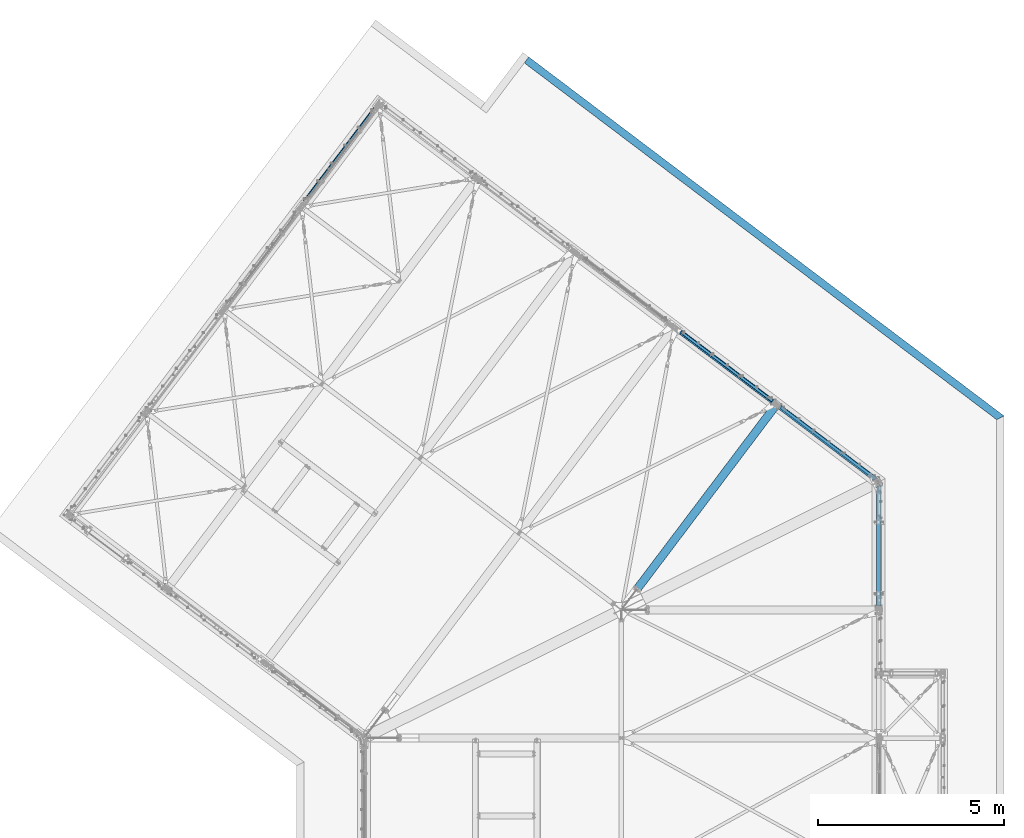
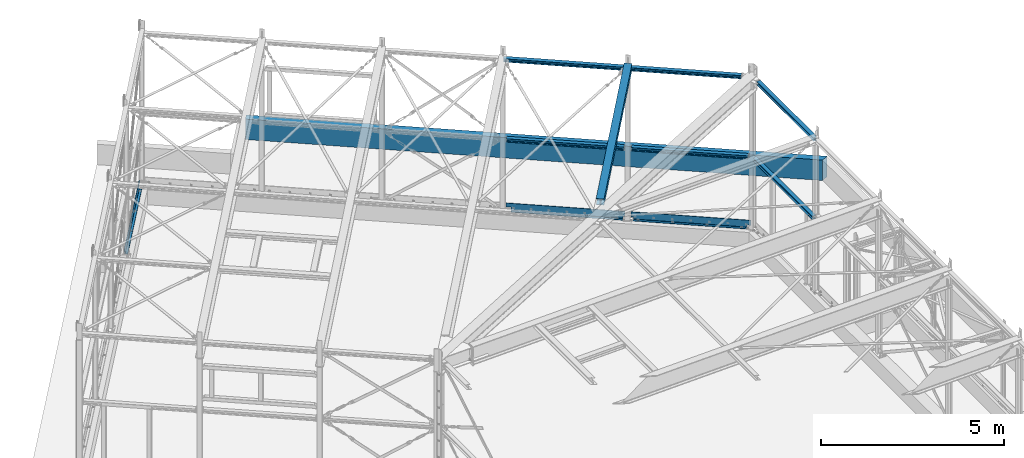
# One storey, part 26 of 476: 10 beams, 1 member, 62 openings.
"""IFC2X3 building model written with IfcOpenShell, lengths in millimetres."""

from ifc_helpers import new_model, entity, si_unit, converted_unit, frame, frame_2d, origin, origin_with_axes, origin_2d, origin_2d_with_axis, place, context, project, spatial, polyline, circle, i_section, l_section, outline, extrude, clip, halfspace, material, element, save


model = new_model("IFC2X3")

# Units and contexts
model_context = context("Model", 3, precision=1e-09, world=origin_with_axes())
ifc_project = project(units=[si_unit("LENGTHUNIT", "METRE", prefix="MILLI"), si_unit("AREAUNIT", "SQUARE_METRE"), si_unit("VOLUMEUNIT", "CUBIC_METRE"), converted_unit("PLANEANGLEUNIT", "DEGREE", entity("IfcPlaneAngleMeasure", 0.01745329), si_unit("PLANEANGLEUNIT", "RADIAN"), dimensions=[0, 0, 0, 0, 0, 0, 0])], contexts=[model_context])

# Site, building, storey
site_placement = place(None, origin_with_axes())
site = spatial("IfcSite", under=ifc_project, at=site_placement, Name="mKR Teilneubau & Sanierung BA1 - Ostfildern", CompositionType="ELEMENT")
building_placement = place(site_placement, origin_with_axes())
building = spatial("IfcBuilding", under=site, at=building_placement, Name="Struktur 1", CompositionType="ELEMENT")
storey_placement = place(building_placement, origin_with_axes())
storey = spatial("IfcBuildingStorey", under=building, at=storey_placement, Name="Default Storey", CompositionType="ELEMENT", Elevation=0.0)

# Beam, openings
ifc_material_1 = material(Name="S235JR")
beam_1_placement = place(None, frame((8471.927959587, 11009.794595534, 594.499999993), z_axis=(-0.602734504, -0.797941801, 0.0), x_axis=(0.797941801, -0.602734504, 0.0)))
beam_1 = element("IfcBeam", 1, at=beam_1_placement, inside=storey, material=ifc_material_1, Name="-", ObjectType="-", context=model_context, shape_type="SweptSolid", body=[
    extrude(l_section(Depth=250.0, Width=90.0, Thickness=10.0, FilletRadius=15.0, EdgeRadius=7.5, at=frame_2d((30.5, 29.4))), origin(), (0.0, 0.0, 1.0), 3286.500000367),
])
opening_1_placement = place(beam_1_placement, frame((-115.7, 25.501, 81.501), z_axis=(-1.0, 0.0, 0.0), x_axis=(0.0, 0.0, -1.0)))
element("IfcOpeningElement", 2, at=opening_1_placement, cuts=beam_1, ObjectType="Opening", context=model_context, shape_type="SweptSolid", body=[
    extrude(outline(polyline([(0.0, 0.0), (131.502, 0.0), (131.502, 170.002), (0.0, 170.002), (0.0, 0.0)])), origin(), (0.0, 0.0, -1.0), 290.2),
])
opening_2_placement = place(beam_1_placement, frame((-115.7, -144.501, 3201.499000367), z_axis=(-1.0, 0.0, 0.0), x_axis=(0.0, 0.0, 1.0)))
element("IfcOpeningElement", 3, at=opening_2_placement, cuts=beam_1, ObjectType="Opening", context=model_context, shape_type="SweptSolid", body=[
    extrude(outline(polyline([(0.0, 0.0), (147.593321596, 0.0), (147.593321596, 170.002), (0.0, 170.002), (0.0, 0.0)])), origin(), (0.0, 0.0, -1.0), 290.2),
])
opening_3_placement = place(beam_1_placement, frame((34.4, -95.0, 1641.500000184), z_axis=(0.0, 1.0, 0.0), x_axis=(0.0, 0.0, 1.0)))
element("IfcOpeningElement", 4, at=opening_3_placement, cuts=beam_1, ObjectType="Opening", context=model_context, shape_type="SweptSolid", body=[
    extrude(circle(Radius=6.001, at=frame_2d((475.0, 0.0), x_axis=(1.0, 0.0))), origin(), (0.0, 0.0, 1.0), 11.000000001),
])
opening_4_placement = place(beam_1_placement, frame((34.4, -95.0, 1641.500000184), z_axis=(0.0, 1.0, 0.0), x_axis=(0.0, 0.0, 1.0)))
element("IfcOpeningElement", 5, at=opening_4_placement, cuts=beam_1, ObjectType="Opening", context=model_context, shape_type="SweptSolid", body=[
    extrude(circle(Radius=6.001, at=frame_2d((-475.0, 0.0), x_axis=(1.0, 0.0))), origin(), (0.0, 0.0, 1.0), 11.000000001),
])
opening_5_placement = place(beam_1_placement, frame((34.4, -95.0, 1641.500000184), z_axis=(0.0, 1.0, 0.0), x_axis=(0.0, 0.0, 1.0)))
element("IfcOpeningElement", 6, at=opening_5_placement, cuts=beam_1, ObjectType="Opening", context=model_context, shape_type="SweptSolid", body=[
    extrude(circle(Radius=6.001, at=frame_2d((1425.0, 0.0), x_axis=(1.0, 0.0))), origin(), (0.0, 0.0, 1.0), 11.000000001),
])
opening_6_placement = place(beam_1_placement, frame((34.4, -95.0, 1641.500000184), z_axis=(0.0, 1.0, 0.0), x_axis=(0.0, 0.0, 1.0)))
element("IfcOpeningElement", 7, at=opening_6_placement, cuts=beam_1, ObjectType="Opening", context=model_context, shape_type="SweptSolid", body=[
    extrude(circle(Radius=6.001, at=frame_2d((-1425.0, 0.0), x_axis=(1.0, 0.0))), origin(), (0.0, 0.0, 1.0), 11.000000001),
])
opening_7_placement = place(beam_1_placement, frame((-5.1, 13.5, 1643.250000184), z_axis=(-1.0, 0.0, 0.0), x_axis=(0.0, 0.0, 1.0)))
element("IfcOpeningElement", 8, at=opening_7_placement, cuts=beam_1, ObjectType="Opening", context=model_context, shape_type="SweptSolid", body=[
    extrude(circle(Radius=7.001, at=frame_2d((300.0, 0.0), x_axis=(1.0, 0.0))), origin(), (0.0, 0.0, 1.0), 11.0),
])
opening_8_placement = place(beam_1_placement, frame((-5.1, 13.5, 1643.250000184), z_axis=(-1.0, 0.0, 0.0), x_axis=(0.0, 0.0, 1.0)))
element("IfcOpeningElement", 9, at=opening_8_placement, cuts=beam_1, ObjectType="Opening", context=model_context, shape_type="SweptSolid", body=[
    extrude(circle(Radius=7.001, at=frame_2d((-300.0, 0.0), x_axis=(1.0, 0.0))), origin(), (0.0, 0.0, 1.0), 11.0),
])
opening_9_placement = place(beam_1_placement, frame((-5.1, 13.5, 1643.250000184), z_axis=(-1.0, 0.0, 0.0), x_axis=(0.0, 0.0, 1.0)))
element("IfcOpeningElement", 10, at=opening_9_placement, cuts=beam_1, ObjectType="Opening", context=model_context, shape_type="SweptSolid", body=[
    extrude(circle(Radius=7.001, at=frame_2d((900.0, 0.0), x_axis=(1.0, 0.0))), origin(), (0.0, 0.0, 1.0), 11.0),
])
opening_10_placement = place(beam_1_placement, frame((-5.1, 13.5, 1643.250000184), z_axis=(-1.0, 0.0, 0.0), x_axis=(0.0, 0.0, 1.0)))
element("IfcOpeningElement", 11, at=opening_10_placement, cuts=beam_1, ObjectType="Opening", context=model_context, shape_type="SweptSolid", body=[
    extrude(circle(Radius=7.001, at=frame_2d((-900.0, 0.0), x_axis=(1.0, 0.0))), origin(), (0.0, 0.0, 1.0), 11.0),
])
opening_11_placement = place(beam_1_placement, frame((-5.1, 13.5, 1643.250000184), z_axis=(-1.0, 0.0, 0.0), x_axis=(0.0, 0.0, 1.0)))
element("IfcOpeningElement", 12, at=opening_11_placement, cuts=beam_1, ObjectType="Opening", context=model_context, shape_type="SweptSolid", body=[
    extrude(circle(Radius=7.001, at=frame_2d((1500.0, 0.0), x_axis=(1.0, 0.0))), origin(), (0.0, 0.0, 1.0), 11.0),
])
opening_12_placement = place(beam_1_placement, frame((-5.1, 13.5, 1643.250000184), z_axis=(-1.0, 0.0, 0.0), x_axis=(0.0, 0.0, 1.0)))
element("IfcOpeningElement", 13, at=opening_12_placement, cuts=beam_1, ObjectType="Opening", context=model_context, shape_type="SweptSolid", body=[
    extrude(circle(Radius=7.001, at=frame_2d((-1500.0, 0.0), x_axis=(1.0, 0.0))), origin(), (0.0, 0.0, 1.0), 11.0),
])

beam_2_placement = place(None, frame((19318.991391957, 2984.773909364, 594.5), z_axis=(-0.797941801, 0.602734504, 0.0), x_axis=(-0.602734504, -0.797941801, 0.0)))
beam_2 = element("IfcBeam", 14, at=beam_2_placement, inside=storey, material=ifc_material_1, Name="-", ObjectType="-", context=model_context, shape_type="SweptSolid", body=[
    extrude(l_section(Depth=250.0, Width=90.0, Thickness=10.0, FilletRadius=15.0, EdgeRadius=7.5, at=frame_2d((30.5, 29.4))), origin(), (0.0, 0.0, -1.0), 3300.155173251),
])
opening_13_placement = place(beam_2_placement, frame((-115.7, -94.5, 0.0), z_axis=(1.0, 0.0, 0.0), x_axis=(0.0, 0.0, -1.0)))
element("IfcOpeningElement", 15, at=opening_13_placement, cuts=beam_2, ObjectType="Opening", context=model_context, shape_type="SweptSolid", body=[
    extrude(outline(polyline([(65.001, 80.001), (-50.001, 80.001), (-50.001, -50.001), (65.001, -50.001), (65.001, 80.001)])), origin(), (0.0, 0.0, 1.0), 290.2),
])
opening_14_placement = place(beam_2_placement, frame((-115.7, -94.5, 0.0), z_axis=(1.0, 0.0, 0.0), x_axis=(0.0, 0.0, -1.0)))
element("IfcOpeningElement", 16, at=opening_14_placement, cuts=beam_2, ObjectType="Opening", context=model_context, shape_type="SweptSolid", body=[
    extrude(outline(polyline([(3185.154173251, -50.001), (3332.46896206, -50.001), (3332.46896206, 80.001), (3185.154173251, 80.001), (3185.154173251, -50.001)])), origin(), (0.0, 0.0, 1.0), 290.2),
])
opening_15_placement = place(beam_2_placement, frame((34.4, -95.0, -2094.076586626), z_axis=(0.0, -1.0, 0.0), x_axis=(1.0, 0.0, 0.0)))
element("IfcOpeningElement", 17, at=opening_15_placement, cuts=beam_2, ObjectType="Opening", context=model_context, shape_type="SweptSolid", body=[
    extrude(circle(Radius=6.001, at=frame_2d((0.0, -6.001), x_axis=(1.0, 0.0))), origin(), (0.0, 0.0, -1.0), 11.0),
])
opening_16_placement = place(beam_2_placement, frame((34.4, -95.0, -1144.076586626), z_axis=(0.0, -1.0, 0.0), x_axis=(1.0, 0.0, 0.0)))
element("IfcOpeningElement", 18, at=opening_16_placement, cuts=beam_2, ObjectType="Opening", context=model_context, shape_type="SweptSolid", body=[
    extrude(circle(Radius=6.001, at=frame_2d((0.0, -6.001), x_axis=(1.0, 0.0))), origin(), (0.0, 0.0, -1.0), 11.0),
])
opening_17_placement = place(beam_2_placement, frame((34.4, -95.0, -3044.076586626), z_axis=(0.0, -1.0, 0.0), x_axis=(1.0, 0.0, 0.0)))
element("IfcOpeningElement", 19, at=opening_17_placement, cuts=beam_2, ObjectType="Opening", context=model_context, shape_type="SweptSolid", body=[
    extrude(circle(Radius=6.001, at=frame_2d((0.0, -6.001), x_axis=(1.0, 0.0))), origin(), (0.0, 0.0, -1.0), 11.0),
])
opening_18_placement = place(beam_2_placement, frame((34.4, -95.0, -194.076586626), z_axis=(0.0, -1.0, 0.0), x_axis=(1.0, 0.0, 0.0)))
element("IfcOpeningElement", 20, at=opening_18_placement, cuts=beam_2, ObjectType="Opening", context=model_context, shape_type="SweptSolid", body=[
    extrude(circle(Radius=6.001, at=frame_2d((0.0, -6.001), x_axis=(1.0, 0.0))), origin(), (0.0, 0.0, -1.0), 11.0),
])
opening_19_placement = place(beam_2_placement, frame((-5.1, 13.5, -1650.077586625), z_axis=(-1.0, 0.0, 0.0), x_axis=(0.0, 0.0, 1.0)))
element("IfcOpeningElement", 21, at=opening_19_placement, cuts=beam_2, ObjectType="Opening", context=model_context, shape_type="SweptSolid", body=[
    extrude(circle(Radius=7.001, at=origin_2d_with_axis()), origin(), (0.0, 0.0, 1.0), 11.0),
])
opening_20_placement = place(beam_2_placement, frame((-5.1, 13.5, -1650.077586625), z_axis=(-1.0, 0.0, 0.0), x_axis=(0.0, 0.0, 1.0)))
element("IfcOpeningElement", 22, at=opening_20_placement, cuts=beam_2, ObjectType="Opening", context=model_context, shape_type="SweptSolid", body=[
    extrude(circle(Radius=7.001, at=frame_2d((510.0, 0.0), x_axis=(1.0, 0.0))), origin(), (0.0, 0.0, 1.0), 11.0),
])
opening_21_placement = place(beam_2_placement, frame((-5.1, 13.5, -1650.077586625), z_axis=(-1.0, 0.0, 0.0), x_axis=(0.0, 0.0, 1.0)))
element("IfcOpeningElement", 23, at=opening_21_placement, cuts=beam_2, ObjectType="Opening", context=model_context, shape_type="SweptSolid", body=[
    extrude(circle(Radius=7.001, at=frame_2d((-510.0, 0.0), x_axis=(1.0, 0.0))), origin(), (0.0, 0.0, 1.0), 11.0),
])
opening_22_placement = place(beam_2_placement, frame((-5.1, 13.5, -1650.077586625), z_axis=(-1.0, 0.0, 0.0), x_axis=(0.0, 0.0, 1.0)))
element("IfcOpeningElement", 24, at=opening_22_placement, cuts=beam_2, ObjectType="Opening", context=model_context, shape_type="SweptSolid", body=[
    extrude(circle(Radius=7.001, at=frame_2d((1020.0, 0.0), x_axis=(1.0, 0.0))), origin(), (0.0, 0.0, 1.0), 11.0),
])
opening_23_placement = place(beam_2_placement, frame((-5.1, 13.5, -1650.077586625), z_axis=(-1.0, 0.0, 0.0), x_axis=(0.0, 0.0, 1.0)))
element("IfcOpeningElement", 25, at=opening_23_placement, cuts=beam_2, ObjectType="Opening", context=model_context, shape_type="SweptSolid", body=[
    extrude(circle(Radius=7.001, at=frame_2d((-1020.0, 0.0), x_axis=(1.0, 0.0))), origin(), (0.0, 0.0, 1.0), 11.0),
])
opening_24_placement = place(beam_2_placement, frame((-5.1, 13.5, -1650.077586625), z_axis=(-1.0, 0.0, 0.0), x_axis=(0.0, 0.0, 1.0)))
element("IfcOpeningElement", 26, at=opening_24_placement, cuts=beam_2, ObjectType="Opening", context=model_context, shape_type="SweptSolid", body=[
    extrude(circle(Radius=7.001, at=frame_2d((1530.0, 0.0), x_axis=(1.0, 0.0))), origin(), (0.0, 0.0, 1.0), 11.0),
])
opening_25_placement = place(beam_2_placement, frame((-5.1, 13.5, -1650.077586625), z_axis=(-1.0, 0.0, 0.0), x_axis=(0.0, 0.0, 1.0)))
element("IfcOpeningElement", 27, at=opening_25_placement, cuts=beam_2, ObjectType="Opening", context=model_context, shape_type="SweptSolid", body=[
    extrude(circle(Radius=7.001, at=frame_2d((-1530.0, 0.0), x_axis=(1.0, 0.0))), origin(), (0.0, 0.0, 1.0), 11.0),
])

# Beams
beam_3_placement = place(None, frame((16417.307697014, 5112.803622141, 2912.000000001), z_axis=(-0.797941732, 0.602734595, 0.0), x_axis=(-0.602734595, -0.797941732, 0.0)))
element("IfcBeam", 28, at=beam_3_placement, inside=storey, material=ifc_material_1, Name="-", ObjectType="-", context=model_context, shape_type="Clipping", body=[
    clip(clip(extrude(i_section(OverallWidth=120.0, OverallDepth=114.0, WebThickness=5.0, FlangeThickness=8.0, FilletRadius=12.0, at=origin_2d()), origin(), (0.0, 0.0, -1.0), 3600.770332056), halfspace(frame((13974.997524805, -2912.000000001, -182.76126912), z_axis=(-1.13e-07, 0.0, -1.0), x_axis=(-1.0, 0.0, 1.13e-07)), True)), halfspace(frame((13974.997158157, -2912.000000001, -3418.012230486), z_axis=(1.13e-07, 0.0, 1.0), x_axis=(1.0, 0.0, -1.13e-07)), True)),
])
beam_4_placement = place(None, frame((19158.439396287, 3042.257820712, 2912.000000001), z_axis=(-0.797941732, 0.602734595, 0.0), x_axis=(-0.602734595, -0.797941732, 0.0)))
element("IfcBeam", 29, at=beam_4_placement, inside=storey, material=ifc_material_1, Name="-", ObjectType="-", context=model_context, shape_type="Clipping", body=[
    clip(clip(extrude(i_section(OverallWidth=120.0, OverallDepth=114.0, WebThickness=5.0, FlangeThickness=8.0, FilletRadius=12.0, at=origin_2d()), origin(), (0.0, 0.0, -1.0), 3598.387417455), halfspace(frame((13974.997135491, -2912.000000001, -182.76126912), z_axis=(-1.13e-07, 0.0, -1.0), x_axis=(-1.0, 0.0, 1.13e-07)), True)), halfspace(frame((17925.730200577, -2912.000000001, 5518.259129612), z_axis=(-0.445682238, 0.0, 0.895191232), x_axis=(0.895191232, 0.0, 0.445682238)), True)),
])

# Beam, openings
beam_5_placement = place(None, frame((21965.608780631, 1002.223846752, 2912.000017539), z_axis=(0.0, 1.0, 0.0), x_axis=(-1.0, 0.0, 0.0)))
beam_5 = element("IfcBeam", 30, at=beam_5_placement, inside=storey, material=ifc_material_1, Name="-", ObjectType="-", context=model_context, shape_type="Clipping", body=[
    clip(clip(extrude(i_section(OverallWidth=120.0, OverallDepth=114.0, WebThickness=5.0, FlangeThickness=8.0, FilletRadius=12.0, at=origin_2d()), origin(), (0.0, 0.0, -1.0), 3598.403486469), halfspace(frame((21965.608780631, -2912.000017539, -3415.643801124), z_axis=(0.0, 0.0, 1.0), x_axis=(1.0, 0.0, 0.0)), True)), halfspace(frame((17925.739002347, -2912.000017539, -9116.648583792), z_axis=(-0.44568234, 0.0, -0.895191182), x_axis=(-0.895191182, 0.0, 0.44568234)), True)),
])
opening_26_placement = place(beam_5_placement, frame((-6.4999535, -57.5, -3176.328545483), z_axis=(0.0, 1.0, 0.0), x_axis=(0.0, 0.0, 1.0)))
element("IfcOpeningElement", 31, at=opening_26_placement, cuts=beam_5, ObjectType="Opening", context=model_context, shape_type="SweptSolid", body=[
    extrude(circle(Radius=6.001, at=frame_2d((0.0, 35.0), x_axis=(1.0, 0.0))), origin(), (0.0, 0.0, 1.0), 9.0),
])
opening_27_placement = place(beam_5_placement, frame((-6.4999535, -57.5, -3176.328545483), z_axis=(0.0, 1.0, 0.0), x_axis=(0.0, 0.0, 1.0)))
element("IfcOpeningElement", 32, at=opening_27_placement, cuts=beam_5, ObjectType="Opening", context=model_context, shape_type="SweptSolid", body=[
    extrude(circle(Radius=6.001, at=frame_2d((0.0, -35.0), x_axis=(1.0, 0.0))), origin(), (0.0, 0.0, 1.0), 9.0),
])
opening_28_placement = place(beam_5_placement, frame((28.5000465, -57.5, -1060.325606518), z_axis=(0.0, -1.0, 0.0), x_axis=(1.0, 0.0, 0.0)))
element("IfcOpeningElement", 33, at=opening_28_placement, cuts=beam_5, ObjectType="Opening", context=model_context, shape_type="SweptSolid", body=[
    extrude(circle(Radius=6.001, at=frame_2d((0.0, -6.001), x_axis=(1.0, 0.0))), origin(), (0.0, 0.0, -1.0), 9.0),
])
opening_29_placement = place(beam_5_placement, frame((-41.4999535, -57.5, -1060.325606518), z_axis=(0.0, -1.0, 0.0), x_axis=(1.0, 0.0, 0.0)))
element("IfcOpeningElement", 34, at=opening_29_placement, cuts=beam_5, ObjectType="Opening", context=model_context, shape_type="SweptSolid", body=[
    extrude(circle(Radius=6.001, at=frame_2d((0.0, -6.001), x_axis=(1.0, 0.0))), origin(), (0.0, 0.0, -1.0), 9.0),
])

beam_6_placement = place(None, frame((16417.307754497, 5112.803579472, 5571.987160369), z_axis=(-0.797941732, 0.602734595, 0.0), x_axis=(-0.602462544, -0.797581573, -0.030041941)))
beam_6 = element("IfcBeam", 35, at=beam_6_placement, inside=storey, material=ifc_material_1, Name="-", ObjectType="-", context=model_context, shape_type="Clipping", body=[
    clip(clip(extrude(i_section(OverallWidth=120.0, OverallDepth=114.0, WebThickness=5.0, FlangeThickness=8.0, FilletRadius=12.0, at=origin_2d()), origin(), (0.0, 0.0, -1.0), 3600.77036051), halfspace(frame((14136.082692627, -5149.636124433, -3502.512177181), z_axis=(1.13e-07, 0.0, 1.0), x_axis=(0.999548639, 0.030041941, -1.13e-07)), True)), halfspace(frame((14136.083078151, -5149.636124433, -100.761215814), z_axis=(-1.13e-07, 0.0, -1.0), x_axis=(-0.999548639, -0.030041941, 1.13e-07)), True)),
])
opening_30_placement = place(beam_6_placement, frame((0.0, 58.324395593, -3518.011675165), z_axis=(0.0, -1.0, 0.0), x_axis=(1.13e-07, 0.0, 1.0)))
element("IfcOpeningElement", 36, at=opening_30_placement, cuts=beam_6, ObjectType="Opening", context=model_context, shape_type="SweptSolid", body=[
    extrude(outline(polyline([(80.000100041, 45.000009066), (80.000100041, 75.000009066), (15.500100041, 75.000009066), (15.500100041, 45.000009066), (80.000100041, 45.000009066)])), origin(), (0.0, 0.0, 1.0), 59.648791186),
])
opening_31_placement = place(beam_6_placement, frame((0.0, 1.304733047, -3518.011675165), z_axis=(0.0, -1.0, 0.0), x_axis=(1.13e-07, 0.0, 1.0)))
element("IfcOpeningElement", 37, at=opening_31_placement, cuts=beam_6, ObjectType="Opening", context=model_context, shape_type="SweptSolid", body=[
    extrude(outline(polyline([(80.000100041, 45.000009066), (80.000100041, 75.000009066), (15.500100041, 75.000009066), (15.500100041, 45.000009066), (80.000100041, 45.000009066)])), origin(), (0.0, 0.0, 1.0), 59.609466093),
])
opening_32_placement = place(beam_6_placement, frame((0.0, -1.332627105, -82.758685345), z_axis=(0.0, 1.0, 0.0), x_axis=(-1.13e-07, 0.0, -1.0)))
element("IfcOpeningElement", 38, at=opening_32_placement, cuts=beam_6, ObjectType="Opening", context=model_context, shape_type="SweptSolid", body=[
    extrude(outline(polyline([(79.999928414, 44.999990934), (79.999928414, 75.000004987), (17.999928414, 75.000004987), (17.999928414, 44.999990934), (79.999928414, 44.999990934)])), origin(), (0.0, 0.0, 1.0), 59.665254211),
])
opening_33_placement = place(beam_6_placement, frame((0.0, -58.353598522, -82.758685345), z_axis=(0.0, 1.0, 0.0), x_axis=(-1.13e-07, 0.0, -1.0)))
element("IfcOpeningElement", 39, at=opening_33_placement, cuts=beam_6, ObjectType="Opening", context=model_context, shape_type="SweptSolid", body=[
    extrude(outline(polyline([(79.999928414, 44.999990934), (79.999928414, 75.000004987), (17.999928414, 75.000004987), (17.999928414, 44.999990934), (79.999928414, 44.999990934)])), origin(), (0.0, 0.0, 1.0), 59.707197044),
])

# Beam
ifc_material_2 = material(Name="C25/30")
beam_7_placement = place(None, frame((25804.846536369, 2201.33001772, 340.0), z_axis=(0.797941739, -0.602734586, 0.0), x_axis=(0.602734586, 0.797941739, 0.0)))
element("IfcBeam", 40, at=beam_7_placement, inside=storey, material=ifc_material_2, Name="-", ObjectType="-", context=model_context, shape_type="Clipping", body=[
    clip(extrude(outline(polyline([(100.0, -340.0), (100.0, 340.0), (-100.0, 340.0), (-100.0, -340.0), (100.0, -340.0)])), origin(), (0.0, 0.0, -1.0), 16643.923963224), halfspace(frame((-21267.807209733, -340.0, -11314.363584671), z_axis=(0.445682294, 0.0, -0.895191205), x_axis=(-0.895191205, 0.0, -0.445682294)), True)),
])

# Beam, openings
beam_8_placement = place(None, frame((21965.608780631, 712.719422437, 5571.987213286), z_axis=(0.0, 1.0, 0.0), x_axis=(-0.999548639, 0.0, -0.030041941)))
beam_8 = element("IfcBeam", 41, at=beam_8_placement, inside=storey, material=ifc_material_1, Name="-", ObjectType="-", context=model_context, shape_type="Clipping", body=[
    clip(clip(extrude(i_section(OverallWidth=120.0, OverallDepth=114.0, WebThickness=5.0, FlangeThickness=8.0, FilletRadius=12.0, at=origin_2d()), origin(), (0.0, 0.0, -1.0), 3308.899062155), halfspace(frame((22123.087675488, -4909.582702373, -3210.63937681), z_axis=(0.0, 0.0, 1.0), x_axis=(0.999548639, 0.030041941, 0.0)), True)), halfspace(frame((22123.087675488, -4909.582702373, -102.759685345), z_axis=(0.0, 0.0, -1.0), x_axis=(-0.999548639, -0.030041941, 0.0)), True)),
])
opening_34_placement = place(beam_8_placement, frame((-45.0, 58.324395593, -3146.14037681), z_axis=(0.0, -1.0, 0.0), x_axis=(0.0, 0.0, 1.0)))
element("IfcOpeningElement", 42, at=opening_34_placement, cuts=beam_8, ObjectType="Opening", context=model_context, shape_type="SweptSolid", body=[
    extrude(outline(polyline([(0.0, 0.0), (0.0, 30.0), (-64.5, 30.0), (-64.5, 0.0), (0.0, 0.0)])), origin(), (0.0, 0.0, 1.0), 59.648791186),
])
opening_35_placement = place(beam_8_placement, frame((-45.0, 1.304733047, -3146.14037681), z_axis=(0.0, -1.0, 0.0), x_axis=(0.0, 0.0, 1.0)))
element("IfcOpeningElement", 43, at=opening_35_placement, cuts=beam_8, ObjectType="Opening", context=model_context, shape_type="SweptSolid", body=[
    extrude(outline(polyline([(0.0, 0.0), (0.0, 30.0), (-64.5, 30.0), (-64.5, 0.0), (0.0, 0.0)])), origin(), (0.0, 0.0, 1.0), 59.609466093),
])
opening_36_placement = place(beam_8_placement, frame((-3.0, 30.0, -112.758685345), z_axis=(1.0, 0.0, 0.0), x_axis=(0.0, 0.0, -1.0)))
element("IfcOpeningElement", 44, at=opening_36_placement, cuts=beam_8, ObjectType="Opening", context=model_context, shape_type="SweptSolid", body=[
    extrude(circle(Radius=6.001, at=origin_2d_with_axis()), origin(), (0.0, 0.0, 1.0), 6.0),
])
opening_37_placement = place(beam_8_placement, frame((-3.0, -30.0, -112.758685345), z_axis=(1.0, 0.0, 0.0), x_axis=(0.0, 0.0, -1.0)))
element("IfcOpeningElement", 45, at=opening_37_placement, cuts=beam_8, ObjectType="Opening", context=model_context, shape_type="SweptSolid", body=[
    extrude(circle(Radius=6.001, at=origin_2d_with_axis()), origin(), (0.0, 0.0, 1.0), 6.0),
])

beam_9_placement = place(None, frame((19158.439476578, 3042.257761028, 5571.987148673), z_axis=(-0.797941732, 0.602734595, 0.0), x_axis=(-0.602462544, -0.797581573, -0.030041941)))
beam_9 = element("IfcBeam", 46, at=beam_9_placement, inside=storey, material=ifc_material_1, Name="-", ObjectType="-", context=model_context, shape_type="Clipping", body=[
    clip(clip(extrude(i_section(OverallWidth=120.0, OverallDepth=114.0, WebThickness=5.0, FlangeThickness=8.0, FilletRadius=12.0, at=origin_2d()), origin(), (0.0, 0.0, -1.0), 3308.898918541), halfspace(frame((14136.082689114, -5149.636124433, -98.26118736), z_axis=(-1.13e-07, 0.0, -1.0), x_axis=(-0.999548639, -0.030041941, 1.13e-07)), True)), halfspace(frame((14136.084224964, -5149.636124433, -3206.139233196), z_axis=(0.0, 0.0, 1.0), x_axis=(0.999548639, 0.030041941, 0.0)), True)),
])
opening_38_placement = place(beam_9_placement, frame((-45.0, -1.304733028, -162.758580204), z_axis=(0.0, 1.0, 0.0), x_axis=(-1.13e-07, 0.0, -1.0)))
element("IfcOpeningElement", 47, at=opening_38_placement, cuts=beam_9, ObjectType="Opening", context=model_context, shape_type="SweptSolid", body=[
    extrude(outline(polyline([(0.0, 0.0), (0.0, 30.00001462), (-64.5, 30.00001462), (-64.5, 0.0), (0.0, 0.0)])), origin(), (0.0, 0.0, 1.0), 59.609466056),
])
opening_39_placement = place(beam_9_placement, frame((-45.0, -58.324395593, -162.758580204), z_axis=(0.0, 1.0, 0.0), x_axis=(-1.13e-07, 0.0, -1.0)))
element("IfcOpeningElement", 48, at=opening_39_placement, cuts=beam_9, ObjectType="Opening", context=model_context, shape_type="SweptSolid", body=[
    extrude(outline(polyline([(0.0, 0.0), (0.0, 30.00001462), (-64.5, 30.00001462), (-64.5, 0.0), (0.0, 0.0)])), origin(), (0.0, 0.0, 1.0), 59.648791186),
])

# Member, openings
member_placement = place(None, frame((15334.358878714, -2157.630948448, 5389.983810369), z_axis=(0.602462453, 0.797581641, 0.030041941), x_axis=(-0.797941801, 0.602734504, 0.0)))
member = element("IfcMember", 49, at=member_placement, inside=storey, material=ifc_material_1, Name="-", ObjectType="-", context=model_context, shape_type="Clipping", body=[
    clip(clip(extrude(i_section(OverallWidth=220.0, OverallDepth=210.0, WebThickness=7.0, FlangeThickness=11.0, FilletRadius=18.0, at=origin_2d()), origin(), (0.0, 0.0, 1.0), 6822.417073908), halfspace(frame((13536.404556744, -5583.142475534, 6345.750079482), z_axis=(0.0, 0.030041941, -0.999548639), x_axis=(-1.0, 0.0, 0.0)), True)), halfspace(frame((13536.404556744, -5161.609046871, 282.070063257), z_axis=(0.0, 0.0, 1.0), x_axis=(1.0, 0.0, 0.0)), True)),
])
opening_40_placement = place(member_placement, frame((4.0, -11.972922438, 6481.668471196), z_axis=(-1.0, 0.0, 0.0), x_axis=(0.0, 1.0, 0.0)))
element("IfcOpeningElement", 50, at=opening_40_placement, cuts=member, ObjectType="Opening", context=model_context, shape_type="SweptSolid", body=[
    extrude(circle(Radius=7.001, at=origin_2d_with_axis()), origin(), (0.0, 0.0, 1.0), 8.0),
])
opening_41_placement = place(member_placement, frame((4.0, -11.972922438, 6431.668471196), z_axis=(-1.0, 0.0, 0.0), x_axis=(0.0, 1.0, 0.0)))
element("IfcOpeningElement", 51, at=opening_41_placement, cuts=member, ObjectType="Opening", context=model_context, shape_type="SweptSolid", body=[
    extrude(circle(Radius=7.001, at=origin_2d_with_axis()), origin(), (0.0, 0.0, 1.0), 8.0),
])
opening_42_placement = place(member_placement, frame((4.0, 68.0, 295.069063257), z_axis=(-1.0, 0.0, 0.0), x_axis=(0.0, 0.0, 1.0)))
element("IfcOpeningElement", 52, at=opening_42_placement, cuts=member, ObjectType="Opening", context=model_context, shape_type="SweptSolid", body=[
    extrude(circle(Radius=7.001, at=origin_2d_with_axis()), origin(), (0.0, 0.0, 1.0), 8.0),
])
opening_43_placement = place(member_placement, frame((4.0, -68.0, 295.069063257), z_axis=(-1.0, 0.0, 0.0), x_axis=(0.0, 0.0, 1.0)))
element("IfcOpeningElement", 53, at=opening_43_placement, cuts=member, ObjectType="Opening", context=model_context, shape_type="SweptSolid", body=[
    extrude(circle(Radius=7.001, at=origin_2d_with_axis()), origin(), (0.0, 0.0, 1.0), 8.0),
])
opening_44_placement = place(member_placement, frame((-52.001, -105.5, 6425.772836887), z_axis=(0.0, -1.0, 0.0), x_axis=(1.0, 0.0, 0.0)))
element("IfcOpeningElement", 54, at=opening_44_placement, cuts=member, ObjectType="Opening", context=model_context, shape_type="SweptSolid", body=[
    extrude(circle(Radius=7.001, at=frame_2d((7.001, 0.0), x_axis=(1.0, 0.0))), origin(), (0.0, 0.0, -1.0), 12.0),
])
opening_45_placement = place(member_placement, frame((37.999, -105.5, 6480.772836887), z_axis=(0.0, -1.0, 0.0), x_axis=(1.0, 0.0, 0.0)))
element("IfcOpeningElement", 55, at=opening_45_placement, cuts=member, ObjectType="Opening", context=model_context, shape_type="SweptSolid", body=[
    extrude(circle(Radius=7.001, at=frame_2d((7.001, 0.0), x_axis=(1.0, 0.0))), origin(), (0.0, 0.0, -1.0), 12.0),
])
opening_46_placement = place(member_placement, frame((37.999, -105.5, 6425.772836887), z_axis=(0.0, -1.0, 0.0), x_axis=(1.0, 0.0, 0.0)))
element("IfcOpeningElement", 56, at=opening_46_placement, cuts=member, ObjectType="Opening", context=model_context, shape_type="SweptSolid", body=[
    extrude(circle(Radius=7.001, at=frame_2d((7.001, 0.0), x_axis=(1.0, 0.0))), origin(), (0.0, 0.0, -1.0), 12.0),
])
opening_47_placement = place(member_placement, frame((-52.001, -105.5, 6480.772836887), z_axis=(0.0, -1.0, 0.0), x_axis=(1.0, 0.0, 0.0)))
element("IfcOpeningElement", 57, at=opening_47_placement, cuts=member, ObjectType="Opening", context=model_context, shape_type="SweptSolid", body=[
    extrude(circle(Radius=7.001, at=frame_2d((7.001, 0.0), x_axis=(1.0, 0.0))), origin(), (0.0, 0.0, -1.0), 12.0),
])
opening_48_placement = place(member_placement, frame((-4.0, 66.969758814, 6503.562650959), z_axis=(1.0, 0.0, 0.0), x_axis=(0.0, 0.030041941, -0.999548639)))
element("IfcOpeningElement", 58, at=opening_48_placement, cuts=member, ObjectType="Opening", context=model_context, shape_type="SweptSolid", body=[
    extrude(circle(Radius=7.001, at=origin_2d_with_axis()), origin(), (0.0, 0.0, 1.0), 8.0),
])
opening_49_placement = place(member_placement, frame((-4.0, -66.969758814, 6499.537030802), z_axis=(1.0, 0.0, 0.0), x_axis=(0.0, 0.030041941, -0.999548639)))
element("IfcOpeningElement", 59, at=opening_49_placement, cuts=member, ObjectType="Opening", context=model_context, shape_type="SweptSolid", body=[
    extrude(circle(Radius=7.001, at=origin_2d_with_axis()), origin(), (0.0, 0.0, 1.0), 8.0),
])

# Beam, openings
beam_10_placement = place(None, frame((19191.320703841, 3081.211430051, 594.5), z_axis=(-0.797941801, 0.602734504, 0.0), x_axis=(-0.602734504, -0.797941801, 0.0)))
beam_10 = element("IfcBeam", 60, at=beam_10_placement, inside=storey, material=ifc_material_1, Name="-", ObjectType="-", context=model_context, shape_type="SweptSolid", body=[
    extrude(l_section(Depth=250.0, Width=90.0, Thickness=10.0, FilletRadius=15.0, EdgeRadius=7.5, at=frame_2d((30.5, 29.4))), origin(), (0.0, 0.0, 1.0), 3275.252961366),
])
opening_50_placement = place(beam_10_placement, frame((-115.7, -14.499, 65.001), z_axis=(-1.0, 0.0, 0.0), x_axis=(0.0, 0.0, -1.0)))
element("IfcOpeningElement", 61, at=opening_50_placement, cuts=beam_10, ObjectType="Opening", context=model_context, shape_type="SweptSolid", body=[
    extrude(outline(polyline([(0.0, 0.0), (115.002, 0.0), (115.002, 130.002), (0.0, 130.002), (0.0, 0.0)])), origin(), (0.0, 0.0, -1.0), 290.2),
])
opening_51_placement = place(beam_10_placement, frame((-115.7, -144.501, 3136.379709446), z_axis=(-1.0, 0.0, 0.0), x_axis=(0.0, 0.0, 1.0)))
element("IfcOpeningElement", 62, at=opening_51_placement, cuts=beam_10, ObjectType="Opening", context=model_context, shape_type="SweptSolid", body=[
    extrude(outline(polyline([(0.0, 0.0), (170.900167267, 0.0), (170.900167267, 170.002), (0.0, 170.002), (0.0, 0.0)])), origin(), (0.0, 0.0, -1.0), 290.2),
])
opening_52_placement = place(beam_10_placement, frame((34.4, -95.0, 1637.626480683), z_axis=(0.0, 1.0, 0.0), x_axis=(0.0, 0.0, 1.0)))
element("IfcOpeningElement", 63, at=opening_52_placement, cuts=beam_10, ObjectType="Opening", context=model_context, shape_type="SweptSolid", body=[
    extrude(circle(Radius=6.001, at=frame_2d((475.0, 0.0), x_axis=(1.0, 0.0))), origin(), (0.0, 0.0, 1.0), 11.0),
])
opening_53_placement = place(beam_10_placement, frame((34.4, -95.0, 1637.626480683), z_axis=(0.0, 1.0, 0.0), x_axis=(0.0, 0.0, 1.0)))
element("IfcOpeningElement", 64, at=opening_53_placement, cuts=beam_10, ObjectType="Opening", context=model_context, shape_type="SweptSolid", body=[
    extrude(circle(Radius=6.001, at=frame_2d((-475.0, 0.0), x_axis=(1.0, 0.0))), origin(), (0.0, 0.0, 1.0), 11.0),
])
opening_54_placement = place(beam_10_placement, frame((34.4, -95.0, 1637.626480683), z_axis=(0.0, 1.0, 0.0), x_axis=(0.0, 0.0, 1.0)))
element("IfcOpeningElement", 65, at=opening_54_placement, cuts=beam_10, ObjectType="Opening", context=model_context, shape_type="SweptSolid", body=[
    extrude(circle(Radius=6.001, at=frame_2d((1425.0, 0.0), x_axis=(1.0, 0.0))), origin(), (0.0, 0.0, 1.0), 11.0),
])
opening_55_placement = place(beam_10_placement, frame((34.4, -95.0, 1637.626480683), z_axis=(0.0, 1.0, 0.0), x_axis=(0.0, 0.0, 1.0)))
element("IfcOpeningElement", 66, at=opening_55_placement, cuts=beam_10, ObjectType="Opening", context=model_context, shape_type="SweptSolid", body=[
    extrude(circle(Radius=6.001, at=frame_2d((-1425.0, 0.0), x_axis=(1.0, 0.0))), origin(), (0.0, 0.0, 1.0), 11.0),
])
opening_56_placement = place(beam_10_placement, frame((-5.1, 13.5, 1597.626480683), z_axis=(-1.0, 0.0, 0.0), x_axis=(0.0, 0.0, 1.0)))
element("IfcOpeningElement", 67, at=opening_56_placement, cuts=beam_10, ObjectType="Opening", context=model_context, shape_type="SweptSolid", body=[
    extrude(circle(Radius=7.001, at=origin_2d_with_axis()), origin(), (0.0, 0.0, 1.0), 11.0),
])
opening_57_placement = place(beam_10_placement, frame((-5.1, 13.5, 1597.626480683), z_axis=(-1.0, 0.0, 0.0), x_axis=(0.0, 0.0, 1.0)))
element("IfcOpeningElement", 68, at=opening_57_placement, cuts=beam_10, ObjectType="Opening", context=model_context, shape_type="SweptSolid", body=[
    extrude(circle(Radius=7.001, at=frame_2d((490.0, 0.0), x_axis=(1.0, 0.0))), origin(), (0.0, 0.0, 1.0), 11.0),
])
opening_58_placement = place(beam_10_placement, frame((-5.1, 13.5, 1597.626480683), z_axis=(-1.0, 0.0, 0.0), x_axis=(0.0, 0.0, 1.0)))
element("IfcOpeningElement", 69, at=opening_58_placement, cuts=beam_10, ObjectType="Opening", context=model_context, shape_type="SweptSolid", body=[
    extrude(circle(Radius=7.001, at=frame_2d((-490.0, 0.0), x_axis=(1.0, 0.0))), origin(), (0.0, 0.0, 1.0), 11.0),
])
opening_59_placement = place(beam_10_placement, frame((-5.1, 13.5, 1597.626480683), z_axis=(-1.0, 0.0, 0.0), x_axis=(0.0, 0.0, 1.0)))
element("IfcOpeningElement", 70, at=opening_59_placement, cuts=beam_10, ObjectType="Opening", context=model_context, shape_type="SweptSolid", body=[
    extrude(circle(Radius=7.001, at=frame_2d((980.0, 0.0), x_axis=(1.0, 0.0))), origin(), (0.0, 0.0, 1.0), 11.0),
])
opening_60_placement = place(beam_10_placement, frame((-5.1, 13.5, 1597.626480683), z_axis=(-1.0, 0.0, 0.0), x_axis=(0.0, 0.0, 1.0)))
element("IfcOpeningElement", 71, at=opening_60_placement, cuts=beam_10, ObjectType="Opening", context=model_context, shape_type="SweptSolid", body=[
    extrude(circle(Radius=7.001, at=frame_2d((-980.0, 0.0), x_axis=(1.0, 0.0))), origin(), (0.0, 0.0, 1.0), 11.0),
])
opening_61_placement = place(beam_10_placement, frame((-5.1, 13.5, 1597.626480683), z_axis=(-1.0, 0.0, 0.0), x_axis=(0.0, 0.0, 1.0)))
element("IfcOpeningElement", 72, at=opening_61_placement, cuts=beam_10, ObjectType="Opening", context=model_context, shape_type="SweptSolid", body=[
    extrude(circle(Radius=7.001, at=frame_2d((1470.0, 0.0), x_axis=(1.0, 0.0))), origin(), (0.0, 0.0, 1.0), 11.0),
])
opening_62_placement = place(beam_10_placement, frame((-5.1, 13.5, 1597.626480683), z_axis=(-1.0, 0.0, 0.0), x_axis=(0.0, 0.0, 1.0)))
element("IfcOpeningElement", 73, at=opening_62_placement, cuts=beam_10, ObjectType="Opening", context=model_context, shape_type="SweptSolid", body=[
    extrude(circle(Radius=7.001, at=frame_2d((-1470.0, 0.0), x_axis=(1.0, 0.0))), origin(), (0.0, 0.0, 1.0), 11.0),
])

save(model, "model.ifc")
